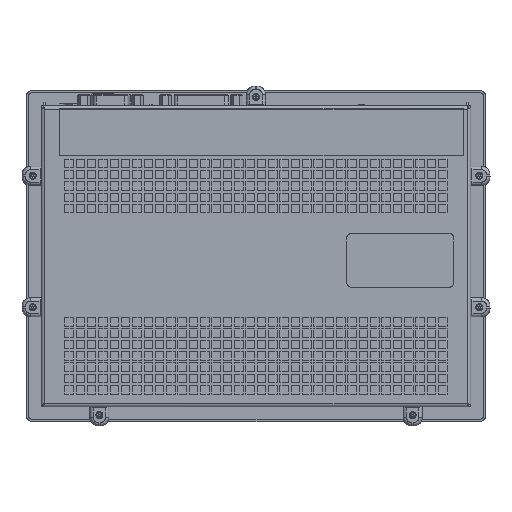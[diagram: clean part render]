
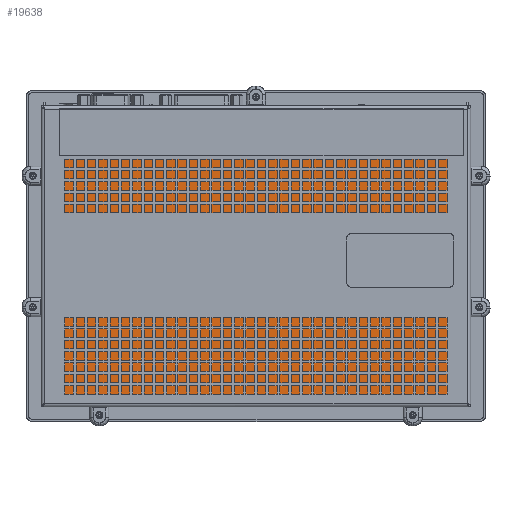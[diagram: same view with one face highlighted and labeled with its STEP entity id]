
A CAD part, front view. The second image highlights one B-rep face of the part: STEP entity #19638.
In plain terms, the highlighted planar face has unit normal (0, -1, 0).
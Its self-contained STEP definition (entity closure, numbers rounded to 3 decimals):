
#10909 = DIRECTION ( 'NONE',  ( -1., 0., 0. ) ) ;
#19638 = ADVANCED_FACE ( 'NONE', ( #168397 ), #202106, .T. ) ;
#37918 = CARTESIAN_POINT ( 'NONE',  ( 0.06, -46.79, 0.13 ) ) ;
#49069 = CARTESIAN_POINT ( 'NONE',  ( -98.84, -46.79, 69.03 ) ) ;
#61869 = EDGE_CURVE ( 'NONE', #109889, #135148, #171435, .T. ) ;
#62957 = EDGE_CURVE ( 'NONE', #285561, #109889, #219621, .T. ) ;
#64170 = ORIENTED_EDGE ( 'NONE', *, *, #62957, .T. ) ;
#67269 = CARTESIAN_POINT ( 'NONE',  ( -98.84, -46.79, 0.13 ) ) ;
#70695 = LINE ( 'NONE', #67269, #213684 ) ;
#73017 = VECTOR ( 'NONE', #112073, 1000. ) ;
#85242 = LINE ( 'NONE', #176227, #186974 ) ;
#109889 = VERTEX_POINT ( 'NONE', #286658 ) ;
#112073 = DIRECTION ( 'NONE',  ( 1., 0., 0. ) ) ;
#135148 = VERTEX_POINT ( 'NONE', #203790 ) ;
#146686 = EDGE_LOOP ( 'NONE', ( #233427, #252597, #258107, #64170 ) ) ;
#152087 = AXIS2_PLACEMENT_3D ( 'NONE', #37918, #298681, #206206 ) ;
#156956 = CARTESIAN_POINT ( 'NONE',  ( -98.84, -46.79, -68.77 ) ) ;
#168397 = FACE_OUTER_BOUND ( 'NONE', #146686, .T. ) ;
#171435 = LINE ( 'NONE', #218516, #178942 ) ;
#176227 = CARTESIAN_POINT ( 'NONE',  ( 0.06, -46.79, 69.03 ) ) ;
#178942 = VECTOR ( 'NONE', #221641, 1000. ) ;
#185097 = EDGE_CURVE ( 'NONE', #244326, #285561, #70695, .T. ) ;
#186974 = VECTOR ( 'NONE', #10909, 1000. ) ;
#192346 = DIRECTION ( 'NONE',  ( 0., 0., -1. ) ) ;
#202106 = PLANE ( 'NONE',  #152087 ) ;
#203790 = CARTESIAN_POINT ( 'NONE',  ( 98.96, -46.79, 69.03 ) ) ;
#206206 = DIRECTION ( 'NONE',  ( 0., 0., -1. ) ) ;
#209786 = CARTESIAN_POINT ( 'NONE',  ( 0.06, -46.79, -68.77 ) ) ;
#213684 = VECTOR ( 'NONE', #192346, 1000. ) ;
#218516 = CARTESIAN_POINT ( 'NONE',  ( 98.96, -46.79, 0.13 ) ) ;
#219621 = LINE ( 'NONE', #209786, #73017 ) ;
#221641 = DIRECTION ( 'NONE',  ( 0., 0., 1. ) ) ;
#233427 = ORIENTED_EDGE ( 'NONE', *, *, #61869, .T. ) ;
#244326 = VERTEX_POINT ( 'NONE', #49069 ) ;
#252597 = ORIENTED_EDGE ( 'NONE', *, *, #254942, .T. ) ;
#254942 = EDGE_CURVE ( 'NONE', #135148, #244326, #85242, .T. ) ;
#258107 = ORIENTED_EDGE ( 'NONE', *, *, #185097, .T. ) ;
#285561 = VERTEX_POINT ( 'NONE', #156956 ) ;
#286658 = CARTESIAN_POINT ( 'NONE',  ( 98.96, -46.79, -68.77 ) ) ;
#298681 = DIRECTION ( 'NONE',  ( 0., -1., 0. ) ) ;
